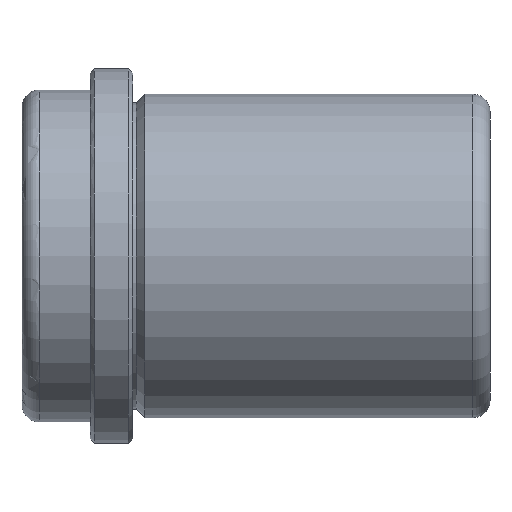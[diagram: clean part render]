
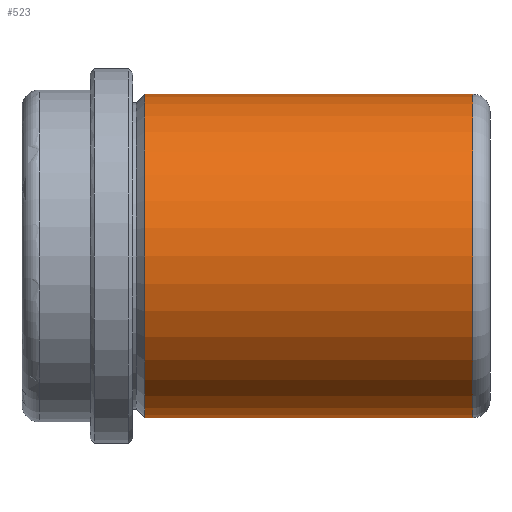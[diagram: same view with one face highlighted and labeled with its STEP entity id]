
A CAD part, front view. The second image highlights one B-rep face of the part: STEP entity #523.
In plain terms, the highlighted cylindrical face has radius 19 mm (diameter 38 mm), a partial arc.
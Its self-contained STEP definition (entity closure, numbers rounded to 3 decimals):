
#312=CARTESIAN_POINT('Line Origine',(42.,0.,19.)) ;
#316=CARTESIAN_POINT('Vertex',(40.,0.,19.)) ;
#318=CARTESIAN_POINT('Vertex',(1.414,0.,19.)) ;
#332=CARTESIAN_POINT('Vertex',(40.,0.,-19.)) ;
#335=CARTESIAN_POINT('Line Origine',(42.,0.,-19.)) ;
#339=CARTESIAN_POINT('Vertex',(1.414,0.,-19.)) ;
#486=CARTESIAN_POINT('Axis2P3D Location',(42.,0.,0.)) ;
#491=CARTESIAN_POINT('Axis2P3D Location',(40.,0.,0.)) ;
#495=CARTESIAN_POINT('Vertex',(40.,-19.,0.)) ;
#498=CARTESIAN_POINT('Axis2P3D Location',(40.,0.,0.)) ;
#503=CARTESIAN_POINT('Axis2P3D Location',(1.414,0.,0.)) ;
#507=CARTESIAN_POINT('Vertex',(1.414,-19.,0.)) ;
#510=CARTESIAN_POINT('Axis2P3D Location',(1.414,0.,0.)) ;
#313=DIRECTION('Vector Direction',(-1.,0.,0.)) ;
#336=DIRECTION('Vector Direction',(-1.,0.,0.)) ;
#487=DIRECTION('Axis2P3D Direction',(-1.,-0.,-0.)) ;
#488=DIRECTION('Axis2P3D XDirection',(0.,0.,-1.)) ;
#492=DIRECTION('Axis2P3D Direction',(-1.,-0.,-0.)) ;
#499=DIRECTION('Axis2P3D Direction',(-1.,-0.,-0.)) ;
#504=DIRECTION('Axis2P3D Direction',(-1.,-0.,-0.)) ;
#511=DIRECTION('Axis2P3D Direction',(-1.,-0.,-0.)) ;
#489=AXIS2_PLACEMENT_3D('Cylinder Axis2P3D',#486,#487,#488) ;
#493=AXIS2_PLACEMENT_3D('Circle Axis2P3D',#491,#492,$) ;
#500=AXIS2_PLACEMENT_3D('Circle Axis2P3D',#498,#499,$) ;
#505=AXIS2_PLACEMENT_3D('Circle Axis2P3D',#503,#504,$) ;
#512=AXIS2_PLACEMENT_3D('Circle Axis2P3D',#510,#511,$) ;
#516=ORIENTED_EDGE('',*,*,#341,.T.) ;
#517=ORIENTED_EDGE('',*,*,#497,.F.) ;
#518=ORIENTED_EDGE('',*,*,#502,.F.) ;
#519=ORIENTED_EDGE('',*,*,#320,.T.) ;
#520=ORIENTED_EDGE('',*,*,#509,.T.) ;
#521=ORIENTED_EDGE('',*,*,#514,.T.) ;
#314=VECTOR('Line Direction',#313,1.) ;
#337=VECTOR('Line Direction',#336,1.) ;
#523=ADVANCED_FACE('FAMO-SF1-B25 x 55',(#522),#490,.T.) ;
#494=CIRCLE('generated circle',#493,19.) ;
#501=CIRCLE('generated circle',#500,19.) ;
#506=CIRCLE('generated circle',#505,19.) ;
#513=CIRCLE('generated circle',#512,19.) ;
#490=CYLINDRICAL_SURFACE('generated cylinder',#489,19.) ;
#320=EDGE_CURVE('',#317,#319,#315,.T.) ;
#341=EDGE_CURVE('',#340,#333,#338,.F.) ;
#497=EDGE_CURVE('',#496,#333,#494,.F.) ;
#502=EDGE_CURVE('',#317,#496,#501,.F.) ;
#509=EDGE_CURVE('',#319,#508,#506,.F.) ;
#514=EDGE_CURVE('',#508,#340,#513,.F.) ;
#515=EDGE_LOOP('',(#516,#517,#518,#519,#520,#521)) ;
#522=FACE_OUTER_BOUND('',#515,.T.) ;
#315=LINE('Line',#312,#314) ;
#338=LINE('Line',#335,#337) ;
#317=VERTEX_POINT('',#316) ;
#319=VERTEX_POINT('',#318) ;
#333=VERTEX_POINT('',#332) ;
#340=VERTEX_POINT('',#339) ;
#496=VERTEX_POINT('',#495) ;
#508=VERTEX_POINT('',#507) ;
